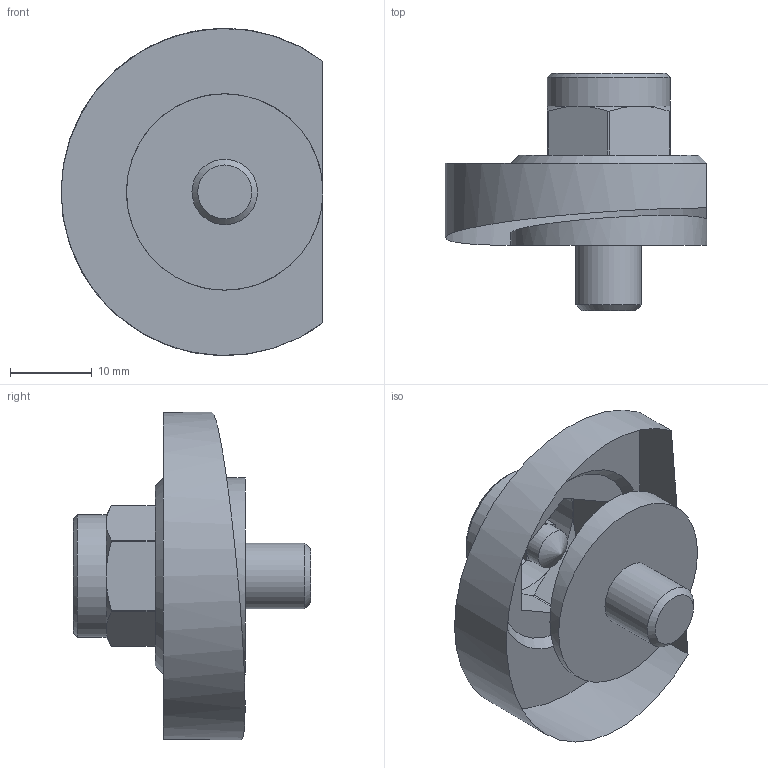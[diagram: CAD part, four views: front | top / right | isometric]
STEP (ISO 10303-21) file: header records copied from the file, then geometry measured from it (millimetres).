
FILE_DESCRIPTION( ( 'STEP AP203' ), '1' );
FILE_NAME( 'C:/Temp/Ganter_Step_05_03_2020/data/2_3/gn_918_2/Clamping bolt GN 918.2-40-SK-L.stp', '2020-03-05T13:12:09', ( 'License CC BY-ND 4.0' ), ( 'CADENAS' ), ' ', 'PARTsolutions', ' ' );
FILE_SCHEMA( ( 'CONFIG_CONTROL_DESIGN' ) );
Length unit declared in the file: millimetre
Products named in the file (1): _Clamping bolt GN 918.2-40-SK-L
Bounding box: 32 x 29 x 40 mm (x, y, z)
Volume: 12042.2 mm3; surface area: 4114.3 mm2
Topology: 1 solids, 1 shells, 46 faces, 114 edges, 70 vertices
Faces by surface type: plane 25, cylinder 11, cone 10
Full cylindrical faces by diameter (mm): 5 x1, 8 x1, 15 x1, 24 x1
Entity records: 1320 total; most frequent: CARTESIAN_POINT 274, DIRECTION 214, ORIENTED_EDGE 192, EDGE_CURVE 96, AXIS2_PLACEMENT_3D 83, VERTEX_POINT 63, EDGE_LOOP 56, FACE_OUTER_BOUND 50
